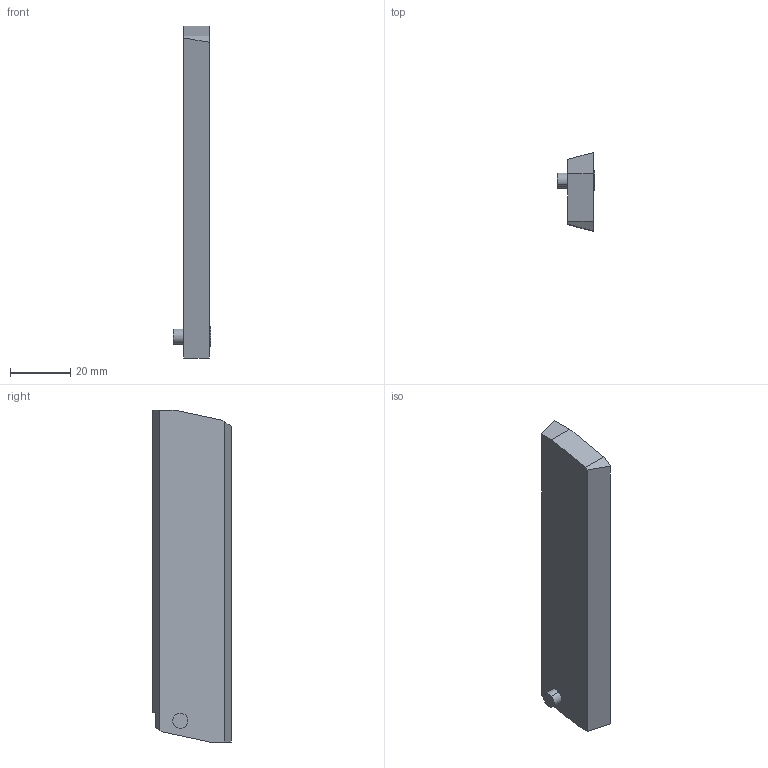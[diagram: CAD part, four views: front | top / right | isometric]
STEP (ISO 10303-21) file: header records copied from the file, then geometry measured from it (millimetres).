
FILE_DESCRIPTION(('CATIA V5 STEP Exchange'),'2;1');
FILE_NAME('I:\isr\design\admin8\users\hnany_a\2302306D.stp','2011-06-19T09:41:43+00:00',('none'),('none'),'CATIA Version 5 Release 19 SP 7 (IN-10)','CATIA V5 STEP AP214','none');
FILE_SCHEMA(('AUTOMOTIVE_DESIGN { 1 0 10303 214 1 1 1 1 }'));
Length unit declared in the file: millimetre
Products named in the file (1): 60797112_0 Assembly PCHBR 26-24R
Bounding box: 12.5 x 25.97 x 110 mm (x, y, z)
Volume: 20915.9 mm3; surface area: 7556.5 mm2
Topology: 1 solids, 1 shells, 30 faces, 73 edges, 48 vertices
Faces by surface type: plane 20, cylinder 8, cone 2
Entity records: 877 total; most frequent: CARTESIAN_POINT 151, ORIENTED_EDGE 146, DIRECTION 131, EDGE_CURVE 73, VECTOR 55, LINE 55, AXIS2_PLACEMENT_3D 48, VERTEX_POINT 48
